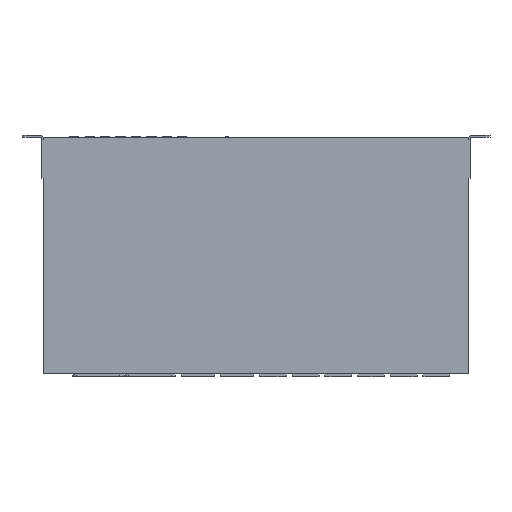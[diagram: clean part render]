
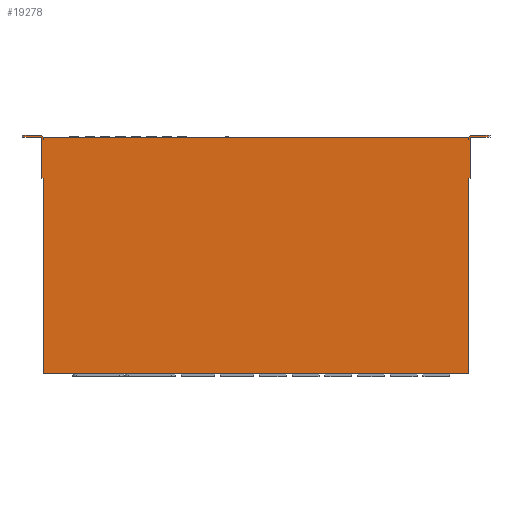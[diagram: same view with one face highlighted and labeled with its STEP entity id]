
A CAD part, top view. The second image highlights one B-rep face of the part: STEP entity #19278.
In plain terms, the highlighted planar face has unit normal (0, 0, 1).
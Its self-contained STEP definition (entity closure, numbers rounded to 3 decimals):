
#19278=ADVANCED_FACE('',(#51282),#51284,.T.);
#51282=FACE_BOUND('',#51283,.T.);
#51283=EDGE_LOOP('',(#79889,#79890,#79891,#79892,#79893,#79894,#79895,#79896,#79897,
#79898,#79899,#79900,#79901,#79902,#79903,#79904,#79905,#79906,#79907,#79908));
#51284=PLANE('',#51285);
#51285=AXIS2_PLACEMENT_3D('',#51286,#51287,#51288);
#51286=CARTESIAN_POINT('',(0.,-122.5,43.9));
#51287=DIRECTION('',(0.,0.,1.));
#51288=DIRECTION('',(1.,0.,0.));
#79889=ORIENTED_EDGE('',*,*,#100705,.T.);
#79890=ORIENTED_EDGE('',*,*,#100706,.T.);
#79891=ORIENTED_EDGE('',*,*,#100707,.T.);
#79892=ORIENTED_EDGE('',*,*,#100708,.T.);
#79893=ORIENTED_EDGE('',*,*,#100709,.T.);
#79894=ORIENTED_EDGE('',*,*,#100710,.T.);
#79895=ORIENTED_EDGE('',*,*,#100711,.T.);
#79896=ORIENTED_EDGE('',*,*,#100712,.T.);
#79897=ORIENTED_EDGE('',*,*,#100713,.T.);
#79898=ORIENTED_EDGE('',*,*,#100714,.T.);
#79899=ORIENTED_EDGE('',*,*,#100715,.T.);
#79900=ORIENTED_EDGE('',*,*,#100716,.T.);
#79901=ORIENTED_EDGE('',*,*,#100717,.T.);
#79902=ORIENTED_EDGE('',*,*,#94967,.T.);
#79903=ORIENTED_EDGE('',*,*,#100718,.T.);
#79904=ORIENTED_EDGE('',*,*,#100719,.T.);
#79905=ORIENTED_EDGE('',*,*,#100720,.T.);
#79906=ORIENTED_EDGE('',*,*,#100721,.F.);
#79907=ORIENTED_EDGE('',*,*,#100722,.T.);
#79908=ORIENTED_EDGE('',*,*,#100723,.T.);
#94967=EDGE_CURVE('',#106538,#106539,#106540,.T.);
#100705=EDGE_CURVE('',#115976,#115977,#115978,.T.);
#100706=EDGE_CURVE('',#115977,#115979,#115980,.T.);
#100707=EDGE_CURVE('',#115979,#115981,#115982,.T.);
#100708=EDGE_CURVE('',#115981,#115983,#115984,.T.);
#100709=EDGE_CURVE('',#115983,#115985,#115986,.T.);
#100710=EDGE_CURVE('',#115985,#115987,#115988,.T.);
#100711=EDGE_CURVE('',#115987,#115989,#115990,.T.);
#100712=EDGE_CURVE('',#115989,#115991,#115992,.F.);
#100713=EDGE_CURVE('',#115991,#115993,#115994,.T.);
#100714=EDGE_CURVE('',#115993,#115995,#115996,.T.);
#100715=EDGE_CURVE('',#115995,#115997,#115998,.T.);
#100716=EDGE_CURVE('',#115997,#115999,#116000,.F.);
#100717=EDGE_CURVE('',#115999,#106538,#116001,.T.);
#100718=EDGE_CURVE('',#106539,#116002,#116003,.T.);
#100719=EDGE_CURVE('',#116002,#116004,#116005,.F.);
#100720=EDGE_CURVE('',#116004,#116006,#116007,.T.);
#100721=EDGE_CURVE('',#116008,#116006,#116009,.T.);
#100722=EDGE_CURVE('',#116008,#116010,#116011,.T.);
#100723=EDGE_CURVE('',#116010,#115976,#116012,.F.);
#106538=VERTEX_POINT('',#126350);
#106539=VERTEX_POINT('',#126351);
#106540=LINE('',#126352,#126353);
#115976=VERTEX_POINT('',#149337);
#115977=VERTEX_POINT('',#149338);
#115978=LINE('',#149339,#149340);
#115979=VERTEX_POINT('',#149342);
#115980=LINE('',#149343,#149344);
#115981=VERTEX_POINT('',#149346);
#115982=LINE('',#149347,#149348);
#115983=VERTEX_POINT('',#149350);
#115984=LINE('',#149351,#149352);
#115985=VERTEX_POINT('',#149354);
#115986=LINE('',#149355,#149356);
#115987=VERTEX_POINT('',#149358);
#115988=LINE('',#149359,#149360);
#115989=VERTEX_POINT('',#149362);
#115990=LINE('',#149363,#149364);
#115991=VERTEX_POINT('',#149366);
#115992=CIRCLE('',#149367,2.);
#115993=VERTEX_POINT('',#149371);
#115994=LINE('',#149372,#149373);
#115995=VERTEX_POINT('',#149375);
#115996=LINE('',#149376,#149377);
#115997=VERTEX_POINT('',#149379);
#115998=LINE('',#149380,#149381);
#115999=VERTEX_POINT('',#149383);
#116000=CIRCLE('',#149384,4.);
#116001=LINE('',#149388,#149389);
#116002=VERTEX_POINT('',#149391);
#116003=LINE('',#149392,#149393);
#116004=VERTEX_POINT('',#149395);
#116005=CIRCLE('',#149396,4.);
#116006=VERTEX_POINT('',#149400);
#116007=LINE('',#149401,#149402);
#116008=VERTEX_POINT('',#149404);
#116009=LINE('',#149405,#149406);
#116010=VERTEX_POINT('',#149408);
#116011=LINE('',#149409,#149410);
#116012=CIRCLE('',#149412,2.);
#126350=CARTESIAN_POINT('',(220.,0.,43.9));
#126351=CARTESIAN_POINT('',(-220.,0.,43.9));
#126352=CARTESIAN_POINT('',(220.,0.,43.9));
#126353=VECTOR('',#126354,1.);
#126354=DIRECTION('',(-1.,0.,0.));
#149337=CARTESIAN_POINT('',(-222.,-2.,43.9));
#149338=CARTESIAN_POINT('',(-222.,-42.5,43.9));
#149339=CARTESIAN_POINT('',(-222.,-2.,43.9));
#149340=VECTOR('',#149341,1.);
#149341=DIRECTION('',(0.,-1.,0.));
#149342=CARTESIAN_POINT('',(-220.,-42.5,43.9));
#149343=CARTESIAN_POINT('',(-222.,-42.5,43.9));
#149344=VECTOR('',#149345,1.);
#149345=DIRECTION('',(1.,0.,0.));
#149346=CARTESIAN_POINT('',(-220.,-245.,43.9));
#149347=CARTESIAN_POINT('',(-220.,-42.5,43.9));
#149348=VECTOR('',#149349,1.);
#149349=DIRECTION('',(0.,-1.,0.));
#149350=CARTESIAN_POINT('',(220.,-245.,43.9));
#149351=CARTESIAN_POINT('',(-220.,-245.,43.9));
#149352=VECTOR('',#149353,1.);
#149353=DIRECTION('',(1.,0.,0.));
#149354=CARTESIAN_POINT('',(220.,-42.5,43.9));
#149355=CARTESIAN_POINT('',(220.,-245.,43.9));
#149356=VECTOR('',#149357,1.);
#149357=DIRECTION('',(0.,1.,0.));
#149358=CARTESIAN_POINT('',(222.,-42.5,43.9));
#149359=CARTESIAN_POINT('',(220.,-42.5,43.9));
#149360=VECTOR('',#149361,1.);
#149361=DIRECTION('',(1.,0.,0.));
#149362=CARTESIAN_POINT('',(222.,-2.,43.9));
#149363=CARTESIAN_POINT('',(222.,-42.5,43.9));
#149364=VECTOR('',#149365,1.);
#149365=DIRECTION('',(0.,1.,0.));
#149366=CARTESIAN_POINT('',(224.,0.,43.9));
#149367=AXIS2_PLACEMENT_3D('',#149368,#149369,#149370);
#149368=CARTESIAN_POINT('',(224.,-2.,43.9));
#149369=DIRECTION('',(0.,0.,1.));
#149370=DIRECTION('',(0.,1.,0.));
#149371=CARTESIAN_POINT('',(240.5,0.,43.9));
#149372=CARTESIAN_POINT('',(224.,0.,43.9));
#149373=VECTOR('',#149374,1.);
#149374=DIRECTION('',(1.,0.,0.));
#149375=CARTESIAN_POINT('',(240.5,2.,43.9));
#149376=CARTESIAN_POINT('',(240.5,0.,43.9));
#149377=VECTOR('',#149378,1.);
#149378=DIRECTION('',(0.,1.,0.));
#149379=CARTESIAN_POINT('',(224.,2.,43.9));
#149380=CARTESIAN_POINT('',(240.5,2.,43.9));
#149381=VECTOR('',#149382,1.);
#149382=DIRECTION('',(-1.,0.,0.));
#149383=CARTESIAN_POINT('',(220.,-2.,43.9));
#149384=AXIS2_PLACEMENT_3D('',#149385,#149386,#149387);
#149385=CARTESIAN_POINT('',(224.,-2.,43.9));
#149386=DIRECTION('',(0.,0.,-1.));
#149387=DIRECTION('',(-1.,0.,0.));
#149388=CARTESIAN_POINT('',(220.,-2.,43.9));
#149389=VECTOR('',#149390,1.);
#149390=DIRECTION('',(0.,1.,0.));
#149391=CARTESIAN_POINT('',(-220.,-2.,43.9));
#149392=CARTESIAN_POINT('',(-220.,0.,43.9));
#149393=VECTOR('',#149394,1.);
#149394=DIRECTION('',(0.,-1.,0.));
#149395=CARTESIAN_POINT('',(-224.,2.,43.9));
#149396=AXIS2_PLACEMENT_3D('',#149397,#149398,#149399);
#149397=CARTESIAN_POINT('',(-224.,-2.,43.9));
#149398=DIRECTION('',(0.,0.,-1.));
#149399=DIRECTION('',(0.,1.,0.));
#149400=CARTESIAN_POINT('',(-240.5,2.,43.9));
#149401=CARTESIAN_POINT('',(-224.,2.,43.9));
#149402=VECTOR('',#149403,1.);
#149403=DIRECTION('',(-1.,0.,0.));
#149404=CARTESIAN_POINT('',(-240.5,0.,43.9));
#149405=CARTESIAN_POINT('',(-240.5,0.,43.9));
#149406=VECTOR('',#149407,1.);
#149407=DIRECTION('',(0.,1.,0.));
#149408=CARTESIAN_POINT('',(-224.,0.,43.9));
#149409=CARTESIAN_POINT('',(-240.5,0.,43.9));
#149410=VECTOR('',#149411,1.);
#149411=DIRECTION('',(1.,0.,0.));
#149412=AXIS2_PLACEMENT_3D('',#149413,#149414,#149415);
#149413=CARTESIAN_POINT('',(-224.,-2.,43.9));
#149414=DIRECTION('',(0.,0.,1.));
#149415=DIRECTION('',(1.,0.,0.));
